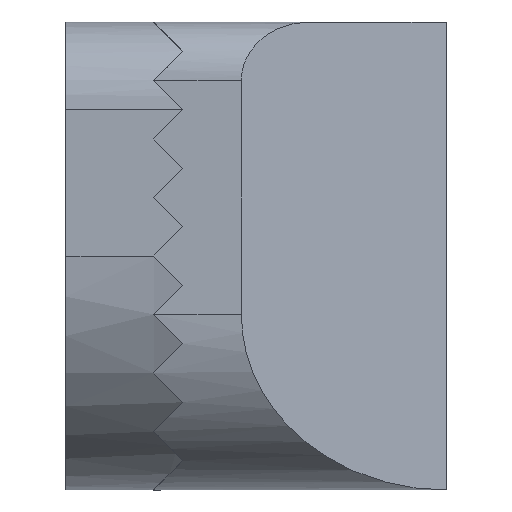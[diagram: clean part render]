
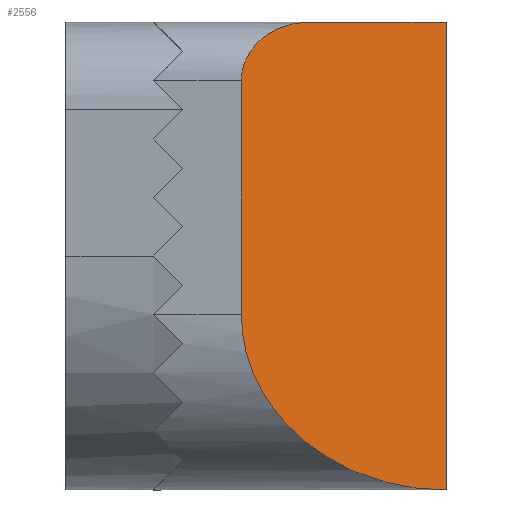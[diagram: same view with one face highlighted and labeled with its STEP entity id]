
A CAD part, left-side view. The second image highlights one B-rep face of the part: STEP entity #2556.
In plain terms, the highlighted planar face has unit normal (-0.759, -0.651, 0).
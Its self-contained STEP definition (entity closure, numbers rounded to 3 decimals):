
#88 = CARTESIAN_POINT ( 'NONE',  ( -8., -3., 4. ) ) ;
#134 = EDGE_CURVE ( 'NONE', #2314, #845, #1452, .T. ) ;
#204 = DIRECTION ( 'NONE',  ( 0.651, -0.759, 0. ) ) ;
#222 = DIRECTION ( 'NONE',  ( 0.759, 0.651, 0. ) ) ;
#291 = CARTESIAN_POINT ( 'NONE',  ( -8., -3., -2.757 ) ) ;
#292 = VERTEX_POINT ( 'NONE', #741 ) ;
#376 = LINE ( 'NONE', #1738, #2878 ) ;
#403 = ORIENTED_EDGE ( 'NONE', *, *, #2400, .T. ) ;
#693 = DIRECTION ( 'NONE',  ( -0.651, 0.759, 0. ) ) ;
#710 = CARTESIAN_POINT ( 'NONE',  ( -5., -6.5, 4. ) ) ;
#725 = EDGE_CURVE ( 'NONE', #1345, #292, #2544, .T. ) ;
#741 = CARTESIAN_POINT ( 'NONE',  ( -8., -3., -1. ) ) ;
#785 = CARTESIAN_POINT ( 'NONE',  ( -8., -3., 3. ) ) ;
#795 = ORIENTED_EDGE ( 'NONE', *, *, #725, .T. ) ;
#845 = VERTEX_POINT ( 'NONE', #710 ) ;
#965 =( BOUNDED_CURVE ( )  B_SPLINE_CURVE ( 3, ( #1204, #291, #2863, #1919 ),
 .UNSPECIFIED., .F., .T. ) 
 B_SPLINE_CURVE_WITH_KNOTS ( ( 4, 4 ),
 ( 0., 1.571 ),
 .UNSPECIFIED. ) 
 CURVE ( )  GEOMETRIC_REPRESENTATION_ITEM ( )  RATIONAL_B_SPLINE_CURVE ( ( 1., 0.805, 0.805, 1. ) ) 
 REPRESENTATION_ITEM ( '' )  );
#1000 = FACE_OUTER_BOUND ( 'NONE', #2932, .T. ) ;
#1101 = VERTEX_POINT ( 'NONE', #2109 ) ;
#1176 = VECTOR ( 'NONE', #1737, 1000. ) ;
#1204 = CARTESIAN_POINT ( 'NONE',  ( -8., -3., -1. ) ) ;
#1250 = CARTESIAN_POINT ( 'NONE',  ( -7., -4.167, 4. ) ) ;
#1296 = DIRECTION ( 'NONE',  ( 0., 0., -1. ) ) ;
#1324 =( BOUNDED_CURVE ( )  B_SPLINE_CURVE ( 3, ( #1250, #2471, #2676, #785 ),
 .UNSPECIFIED., .F., .F. ) 
 B_SPLINE_CURVE_WITH_KNOTS ( ( 4, 4 ),
 ( 1.571, 3.142 ),
 .UNSPECIFIED. ) 
 CURVE ( )  GEOMETRIC_REPRESENTATION_ITEM ( )  RATIONAL_B_SPLINE_CURVE ( ( 1., 0.805, 0.805, 1. ) ) 
 REPRESENTATION_ITEM ( '' )  );
#1345 = VERTEX_POINT ( 'NONE', #2250 ) ;
#1452 = LINE ( 'NONE', #2277, #2338 ) ;
#1636 = ORIENTED_EDGE ( 'NONE', *, *, #2793, .T. ) ;
#1737 = DIRECTION ( 'NONE',  ( 0., 0., -1. ) ) ;
#1738 = CARTESIAN_POINT ( 'NONE',  ( -5., -6.5, 4. ) ) ;
#1847 = CARTESIAN_POINT ( 'NONE',  ( -8., -3., 4. ) ) ;
#1855 = PLANE ( 'NONE',  #2464 ) ;
#1919 = CARTESIAN_POINT ( 'NONE',  ( -5., -6.5, -4. ) ) ;
#2039 = EDGE_CURVE ( 'NONE', #845, #1101, #376, .T. ) ;
#2109 = CARTESIAN_POINT ( 'NONE',  ( -5., -6.5, -4. ) ) ;
#2246 = CARTESIAN_POINT ( 'NONE',  ( -7., -4.167, 4. ) ) ;
#2250 = CARTESIAN_POINT ( 'NONE',  ( -8., -3., 3. ) ) ;
#2277 = CARTESIAN_POINT ( 'NONE',  ( -8., -3., 4. ) ) ;
#2314 = VERTEX_POINT ( 'NONE', #2246 ) ;
#2338 = VECTOR ( 'NONE', #204, 1000. ) ;
#2400 = EDGE_CURVE ( 'NONE', #2314, #1345, #1324, .T. ) ;
#2464 = AXIS2_PLACEMENT_3D ( 'NONE', #1847, #222, #693 ) ;
#2471 = CARTESIAN_POINT ( 'NONE',  ( -7.586, -3.483, 4. ) ) ;
#2544 = LINE ( 'NONE', #88, #1176 ) ;
#2556 = ADVANCED_FACE ( 'NONE', ( #1000 ), #1855, .F. ) ;
#2676 = CARTESIAN_POINT ( 'NONE',  ( -8., -3., 3.586 ) ) ;
#2748 = ORIENTED_EDGE ( 'NONE', *, *, #134, .F. ) ;
#2788 = ORIENTED_EDGE ( 'NONE', *, *, #2039, .F. ) ;
#2793 = EDGE_CURVE ( 'NONE', #292, #1101, #965, .T. ) ;
#2863 = CARTESIAN_POINT ( 'NONE',  ( -6.757, -4.45, -4. ) ) ;
#2878 = VECTOR ( 'NONE', #1296, 1000. ) ;
#2932 = EDGE_LOOP ( 'NONE', ( #795, #1636, #2788, #2748, #403 ) ) ;
